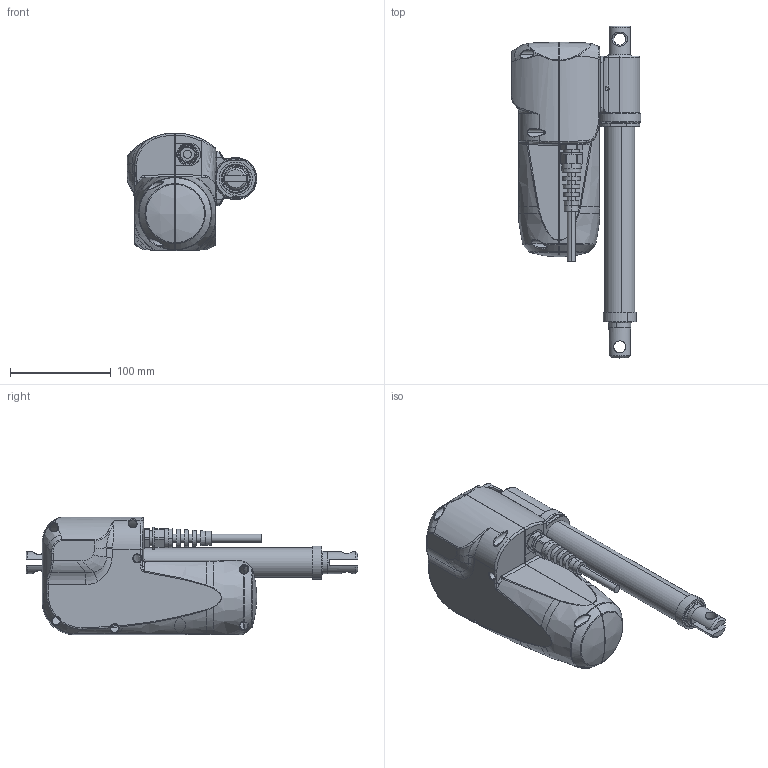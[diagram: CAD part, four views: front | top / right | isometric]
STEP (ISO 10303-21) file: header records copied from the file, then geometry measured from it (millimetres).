
FILE_DESCRIPTION (( 'STEP AP203' ), '1' );
FILE_NAME ('MD56.STEP', '2015-10-29T08:02:42', ( '' ), ( '' ), 'SwSTEP 2.0', 'SolidWorks 2012', '' );
FILE_SCHEMA (( 'CONFIG_CONTROL_DESIGN' ));
Length unit declared in the file: millimetre
Products named in the file (3): MD56; 2; 1
Assembly tree (2 placements, depth 2):
  MD56
    1
    2
Bounding box: 128.9 x 330 x 117 mm (x, y, z)
Surface area: 150587.5 mm2 (no closed solid volume)
Topology: 0 solids, 12 shells, 419 faces, 1297 edges, 868 vertices
Faces by surface type: bspline 163, cylinder 113, plane 94, cone 40, torus 7, sphere 2
Entity records: 28267 total; most frequent: CARTESIAN_POINT 17611, ORIENTED_EDGE 2219, DIRECTION 1958, EDGE_CURVE 1297, VERTEX_POINT 868, AXIS2_PLACEMENT_3D 782, CIRCLE 521, EDGE_LOOP 464
